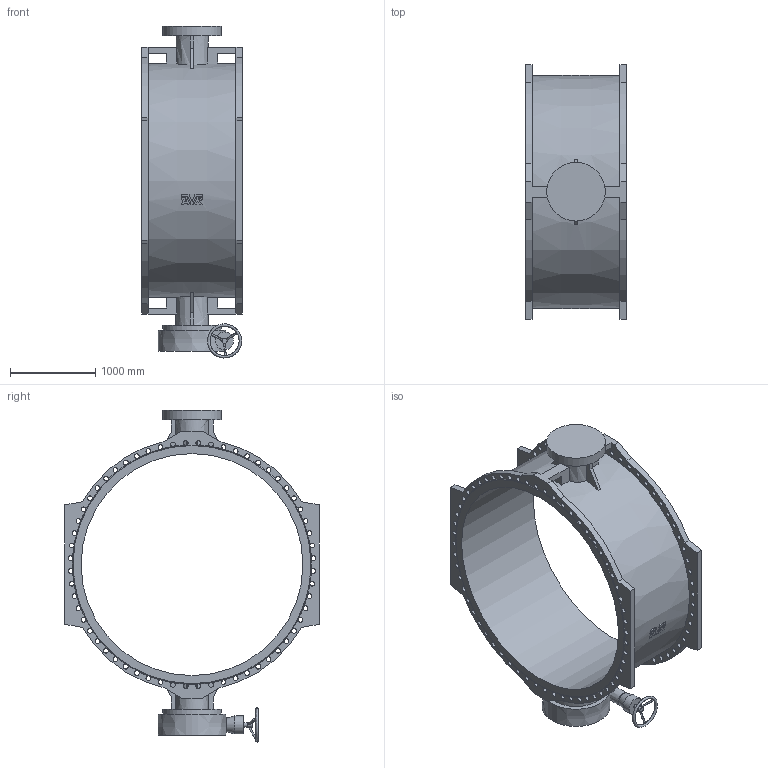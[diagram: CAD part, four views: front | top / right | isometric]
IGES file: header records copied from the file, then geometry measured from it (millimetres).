
Start section: SolidWorks IGES file using analytic representation for surfaces
Global section: file name: \\avksan2\techshare\PBM outline export from Enovia\O_756_100_DN2600_0XX000XX_REV03.igs; native system: SolidWorks 2019; preprocessor: SolidWorks 2019; author: pbm; date: 211011.090612; units: millimetre
Bounding box: 1190 x 2980 x 3889.38 mm (x, y, z)
Surface area: 31677117 mm2 (no closed solid volume)
Topology: 0 solids, 0 shells, 261 faces, 1962 edges, 1824 vertices
Faces by surface type: revolution 152, bspline 109
